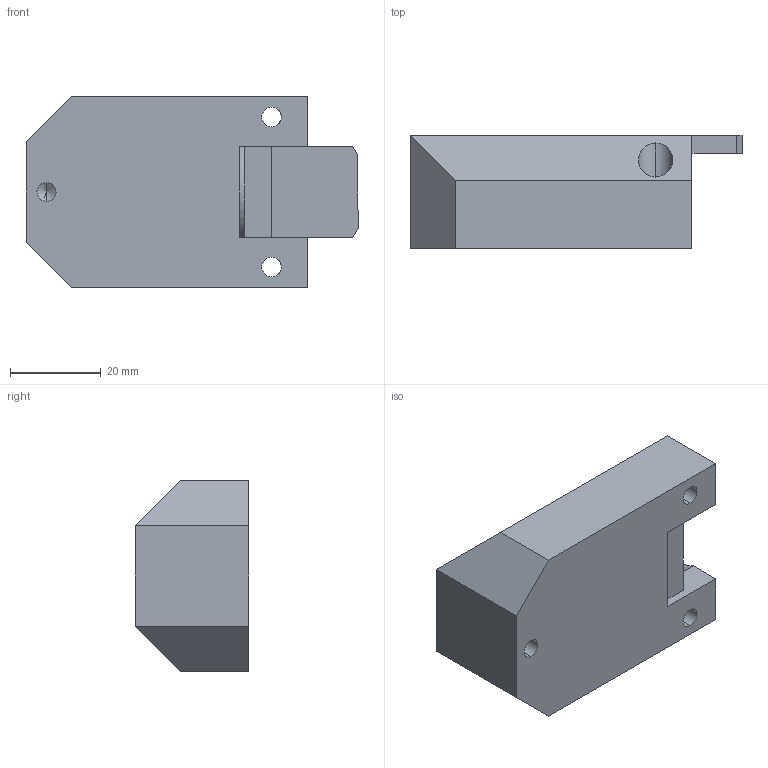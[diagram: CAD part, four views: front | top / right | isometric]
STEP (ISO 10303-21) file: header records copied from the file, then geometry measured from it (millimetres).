
FILE_DESCRIPTION (( 'STEP AP203' ), '1' );
FILE_NAME ('DESHB15-W.STEP', '2008-09-24T10:33:20', ( '' ), ( '' ), 'SwSTEP 2.0', 'SolidWorks 2007', '' );
FILE_SCHEMA (( 'CONFIG_CONTROL_DESIGN' ));
Length unit declared in the file: millimetre
Products named in the file (1): DESHB15-W
Bounding box: 73 x 25 x 42 mm (x, y, z)
Volume: 52480.8 mm3; surface area: 11523.7 mm2
Topology: 1 solids, 3 shells, 88 faces, 225 edges, 141 vertices
Faces by surface type: plane 55, cylinder 29, cone 4
Entity records: 2822 total; most frequent: CARTESIAN_POINT 565, DIRECTION 455, ORIENTED_EDGE 446, EDGE_CURVE 223, VECTOR 153, LINE 153, AXIS2_PLACEMENT_3D 151, VERTEX_POINT 141
